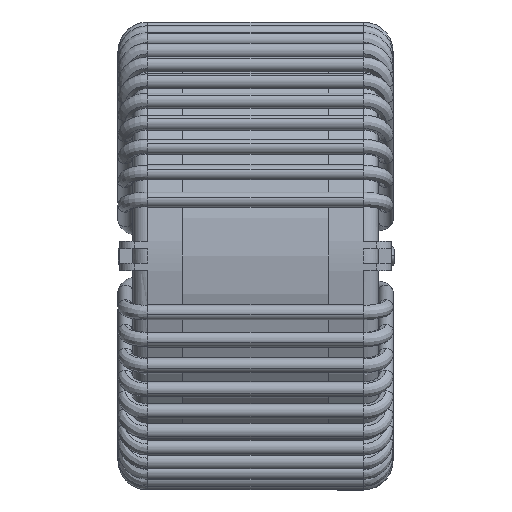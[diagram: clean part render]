
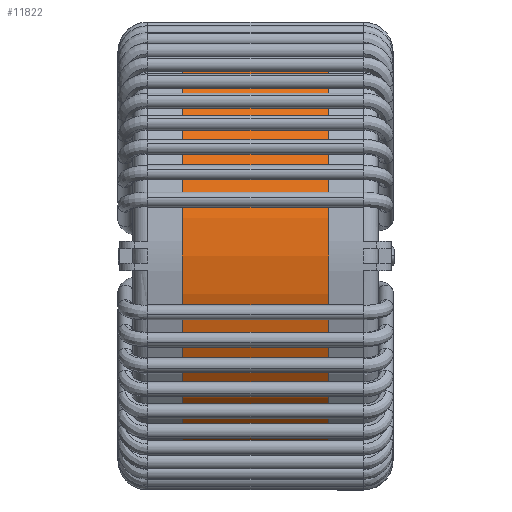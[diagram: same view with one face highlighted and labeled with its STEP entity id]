
A CAD part, left-side view. The second image highlights one B-rep face of the part: STEP entity #11822.
In plain terms, the highlighted cylindrical face has radius 15.08 mm (diameter 30.16 mm), a partial arc.
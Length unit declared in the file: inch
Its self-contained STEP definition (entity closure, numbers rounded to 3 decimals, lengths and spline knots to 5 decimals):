
#166 = CARTESIAN_POINT ( 'NONE',  ( 0., -0.19685, 0. ) ) ;
#605 = EDGE_LOOP ( 'NONE', ( #46645, #31123, #23870, #14004 ) ) ;
#2450 = CARTESIAN_POINT ( 'NONE',  ( 0., 0.19685, 0. ) ) ;
#2622 = CIRCLE ( 'NONE', #28150, 0.5937 ) ;
#3189 = LINE ( 'NONE', #48065, #48511 ) ;
#3253 = LINE ( 'NONE', #8201, #34978 ) ;
#4085 = DIRECTION ( 'NONE',  ( 0., -1., 0. ) ) ;
#4929 = FACE_OUTER_BOUND ( 'NONE', #605, .T. ) ;
#6203 = VERTEX_POINT ( 'NONE', #24294 ) ;
#6511 = DIRECTION ( 'NONE',  ( 0., -1., 0. ) ) ;
#8201 = CARTESIAN_POINT ( 'NONE',  ( 0., 0.19685, -0.5937 ) ) ;
#8411 = AXIS2_PLACEMENT_3D ( 'NONE', #2450, #4085, #40771 ) ;
#11822 = ADVANCED_FACE ( 'NONE', ( #4929 ), #39939, .T. ) ;
#14004 = ORIENTED_EDGE ( 'NONE', *, *, #19753, .T. ) ;
#17399 = EDGE_CURVE ( 'NONE', #29544, #45769, #3189, .T. ) ;
#18547 = DIRECTION ( 'NONE',  ( 0., 1., 0. ) ) ;
#19753 = EDGE_CURVE ( 'NONE', #34263, #45769, #2622, .T. ) ;
#23198 = AXIS2_PLACEMENT_3D ( 'NONE', #25886, #18547, #47105 ) ;
#23672 = CARTESIAN_POINT ( 'NONE',  ( 0., -0.19685, 0.5937 ) ) ;
#23870 = ORIENTED_EDGE ( 'NONE', *, *, #33320, .T. ) ;
#24294 = CARTESIAN_POINT ( 'NONE',  ( 0., 0.19685, -0.5937 ) ) ;
#25886 = CARTESIAN_POINT ( 'NONE',  ( 0., 0.19685, 0. ) ) ;
#28150 = AXIS2_PLACEMENT_3D ( 'NONE', #166, #41750, #31059 ) ;
#29495 = EDGE_CURVE ( 'NONE', #6203, #29544, #50383, .T. ) ;
#29544 = VERTEX_POINT ( 'NONE', #39776 ) ;
#30086 = DIRECTION ( 'NONE',  ( 0., -1., 0. ) ) ;
#31059 = DIRECTION ( 'NONE',  ( 0., 0., 1. ) ) ;
#31123 = ORIENTED_EDGE ( 'NONE', *, *, #29495, .F. ) ;
#33320 = EDGE_CURVE ( 'NONE', #6203, #34263, #3253, .T. ) ;
#34263 = VERTEX_POINT ( 'NONE', #37743 ) ;
#34978 = VECTOR ( 'NONE', #30086, 39.37008 ) ;
#37743 = CARTESIAN_POINT ( 'NONE',  ( 0., -0.19685, -0.5937 ) ) ;
#39776 = CARTESIAN_POINT ( 'NONE',  ( 0., 0.19685, 0.5937 ) ) ;
#39939 = CYLINDRICAL_SURFACE ( 'NONE', #8411, 0.5937 ) ;
#40771 = DIRECTION ( 'NONE',  ( 0., 0., -1. ) ) ;
#41750 = DIRECTION ( 'NONE',  ( 0., 1., 0. ) ) ;
#45769 = VERTEX_POINT ( 'NONE', #23672 ) ;
#46645 = ORIENTED_EDGE ( 'NONE', *, *, #17399, .F. ) ;
#47105 = DIRECTION ( 'NONE',  ( 0., 0., 1. ) ) ;
#48065 = CARTESIAN_POINT ( 'NONE',  ( 0., 0.19685, 0.5937 ) ) ;
#48511 = VECTOR ( 'NONE', #6511, 39.37008 ) ;
#50383 = CIRCLE ( 'NONE', #23198, 0.5937 ) ;
